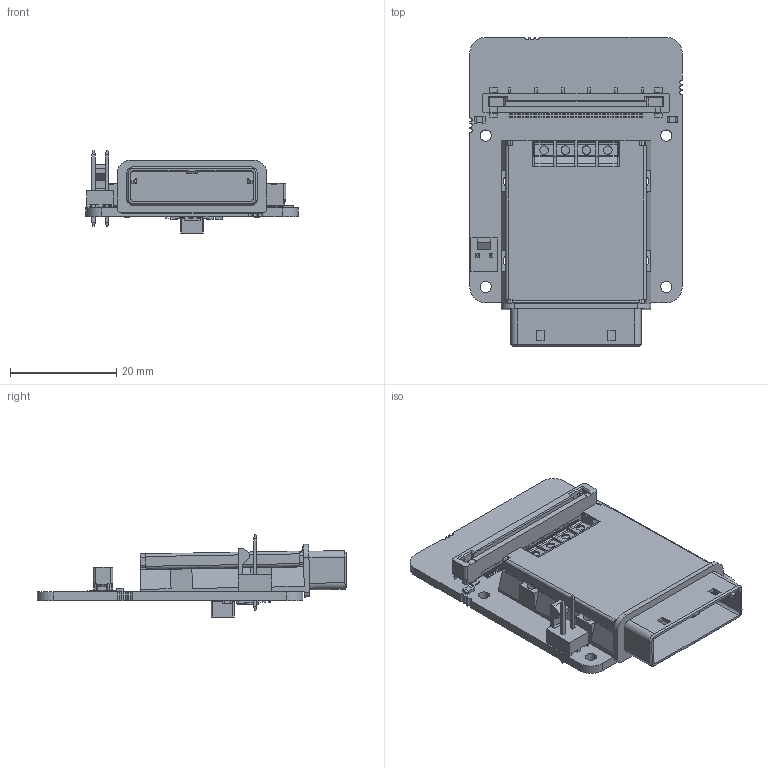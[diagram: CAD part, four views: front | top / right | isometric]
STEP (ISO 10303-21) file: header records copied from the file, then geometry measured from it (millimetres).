
FILE_DESCRIPTION(/* description */ ('step model'),/* implementation_level */ '2;1');
FILE_NAME(/* name */ 'ADPT-MX-X4G2-IPASSTARG-FV.stp',/* time_stamp */ '2017-09-04T14:36:16+02:00',/* author */ ('Spano'),/* organization */ ('Ximea'),/* preprocessor_version */ 'ST-DEVELOPER v16',/* originating_system */ 'SIEMENS PLM Software NX 11.0',/* authorisation */ '');
FILE_SCHEMA (('AUTOMOTIVE_DESIGN { 1 0 10303 214 3 1 1 1 }'));
Products named in the file (1): ADPT-MX-X4G2-IPASSTARG-FV
Bounding box: 40 x 58.26 x 15.46 mm (x, y, z)
Volume: 9067.2 mm3; surface area: 12431 mm2
Topology: 27 solids, 27 shells, 2699 faces, 7282 edges, 4802 vertices
Faces by surface type: plane 1943, cylinder 724, bspline 18, cone 14
Full cylindrical faces by diameter (mm): 1 x2, 1.55 x4, 2.1 x4, 2.5 x4
Entity records: 86215 total; most frequent: CARTESIAN_POINT 15762, ORIENTED_EDGE 14564, DIRECTION 13980, EDGE_CURVE 7282, LINE 5748, VECTOR 5748, VERTEX_POINT 4802, AXIS2_PLACEMENT_3D 4116
